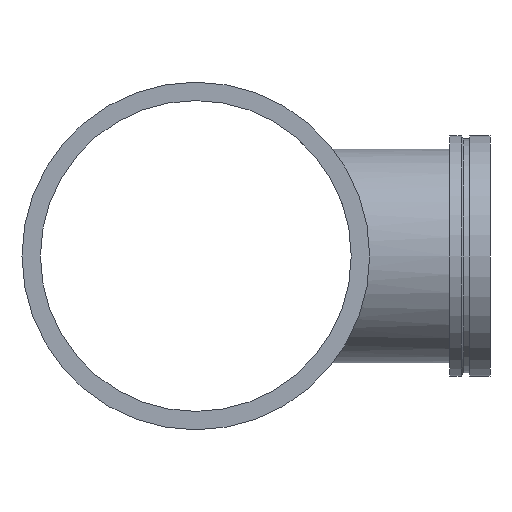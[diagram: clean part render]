
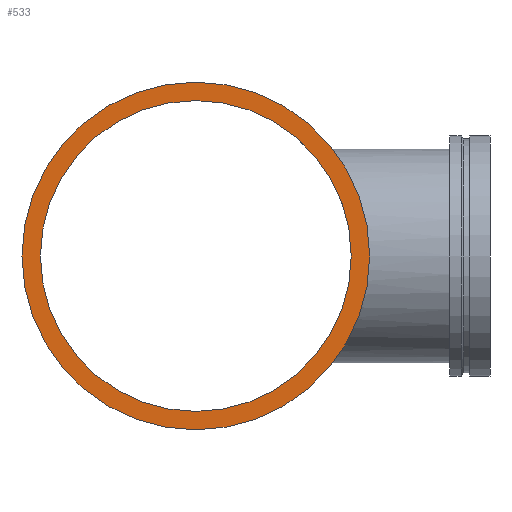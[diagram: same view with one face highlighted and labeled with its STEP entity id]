
A CAD part, left-side view. The second image highlights one B-rep face of the part: STEP entity #533.
In plain terms, the highlighted planar face has unit normal (-1, 0, 0).
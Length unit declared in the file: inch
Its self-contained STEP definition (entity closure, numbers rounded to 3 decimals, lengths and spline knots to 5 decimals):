
#58=FACE_BOUND('',#128,.T.);
#67=PLANE('',#626);
#92=FACE_OUTER_BOUND('',#127,.T.);
#127=EDGE_LOOP('',(#465,#466));
#128=EDGE_LOOP('',(#467,#468));
#151=CIRCLE('',#587,13.);
#152=CIRCLE('',#588,13.);
#175=CIRCLE('',#624,11.625);
#176=CIRCLE('',#625,11.625);
#239=VERTEX_POINT('',#1097);
#240=VERTEX_POINT('',#1099);
#263=VERTEX_POINT('',#1166);
#264=VERTEX_POINT('',#1168);
#299=EDGE_CURVE('',#239,#240,#151,.T.);
#300=EDGE_CURVE('',#240,#239,#152,.T.);
#331=EDGE_CURVE('',#264,#263,#175,.T.);
#332=EDGE_CURVE('',#263,#264,#176,.T.);
#465=ORIENTED_EDGE('',*,*,#300,.F.);
#466=ORIENTED_EDGE('',*,*,#299,.F.);
#467=ORIENTED_EDGE('',*,*,#331,.T.);
#468=ORIENTED_EDGE('',*,*,#332,.T.);
#533=ADVANCED_FACE('',(#92,#58),#67,.T.);
#587=AXIS2_PLACEMENT_3D('',#1100,#716,#717);
#588=AXIS2_PLACEMENT_3D('',#1101,#718,#719);
#624=AXIS2_PLACEMENT_3D('',#1169,#798,#799);
#625=AXIS2_PLACEMENT_3D('',#1170,#800,#801);
#626=AXIS2_PLACEMENT_3D('',#1171,#802,#803);
#716=DIRECTION('center_axis',(1.,0.,0.));
#717=DIRECTION('ref_axis',(0.,0.,1.));
#718=DIRECTION('center_axis',(1.,0.,0.));
#719=DIRECTION('ref_axis',(0.,0.,1.));
#798=DIRECTION('center_axis',(1.,0.,0.));
#799=DIRECTION('ref_axis',(0.,0.,1.));
#800=DIRECTION('center_axis',(1.,0.,0.));
#801=DIRECTION('ref_axis',(0.,0.,1.));
#802=DIRECTION('center_axis',(-1.,0.,0.));
#803=DIRECTION('ref_axis',(0.,0.,-1.));
#1097=CARTESIAN_POINT('',(-23.,13.,0.));
#1099=CARTESIAN_POINT('',(-23.,-13.,0.));
#1100=CARTESIAN_POINT('Origin',(-23.,0.,0.));
#1101=CARTESIAN_POINT('Origin',(-23.,0.,0.));
#1166=CARTESIAN_POINT('',(-23.,11.625,0.));
#1168=CARTESIAN_POINT('',(-23.,-11.625,0.));
#1169=CARTESIAN_POINT('Origin',(-23.,0.,0.));
#1170=CARTESIAN_POINT('Origin',(-23.,0.,0.));
#1171=CARTESIAN_POINT('Origin',(-23.,-13.,0.));
